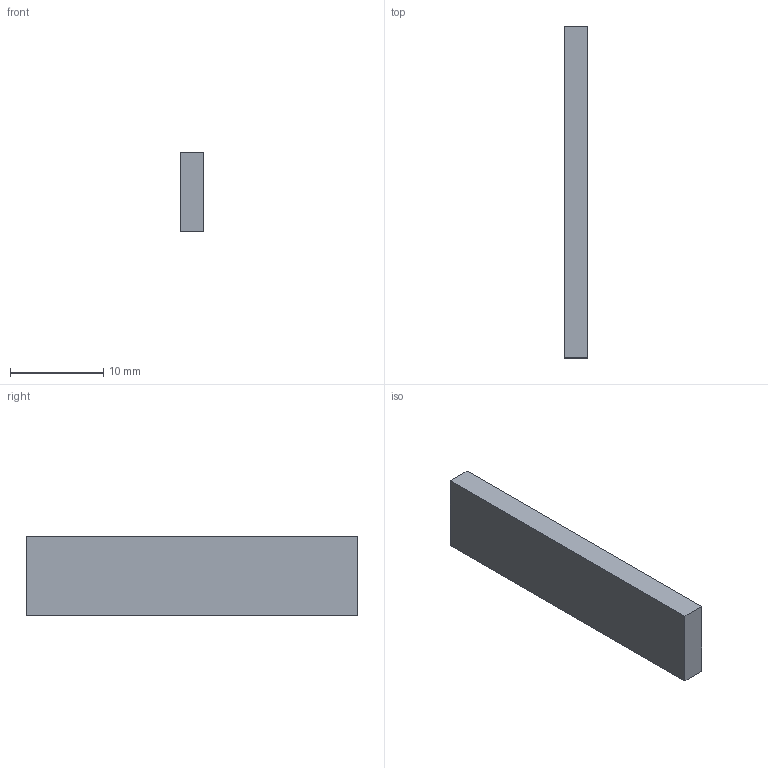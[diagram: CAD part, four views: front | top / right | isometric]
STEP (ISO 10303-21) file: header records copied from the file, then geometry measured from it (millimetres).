
FILE_DESCRIPTION(('Through-hole socket strip 1x14, 2.54 mm pitch -- body envelope 8.50 mm tall (2.54 mm socket strip, mating height (ICD-EEG-006 section 4))'),'2;1');
FILE_NAME('PinSocket_1x14_P2.54mm_Vertical','2026-09-08T00:00:00',('TI One Voice research programme'),(''),'EEG-CAR-01 step_write.py','','CC BY-SA 4.0');
FILE_SCHEMA(('AUTOMOTIVE_DESIGN { 1 0 10303 214 1 1 1 1 }'));
Length unit declared in the file: millimetre
Products named in the file (1): PinSocket_1x14_P2.54mm_Vertical
Bounding box: 2.54 x 35.56 x 8.5 mm (x, y, z)
Volume: 767.7 mm3; surface area: 828.3 mm2
Topology: 1 solids, 1 shells, 6 faces, 12 edges, 8 vertices
Faces by surface type: plane 6
Entity records: 67 total; most frequent: DIRECTION 14, CARTESIAN_POINT 9, AXIS2_PLACEMENT_3D 7, POLY_LOOP 6, FACE_OUTER_BOUND 6, PLANE 6, FACE_SURFACE 6, UNCERTAINTY_MEASURE_WITH_UNIT 1
